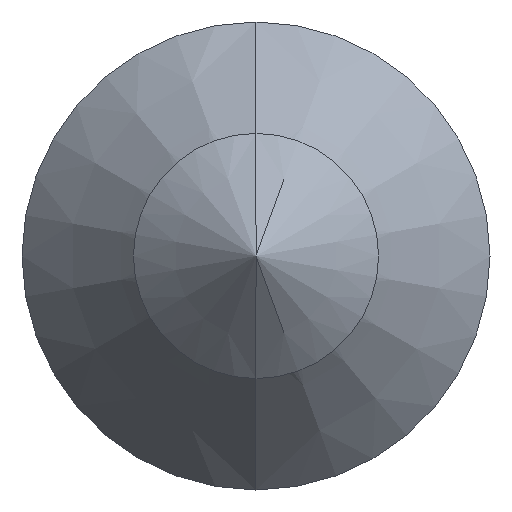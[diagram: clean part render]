
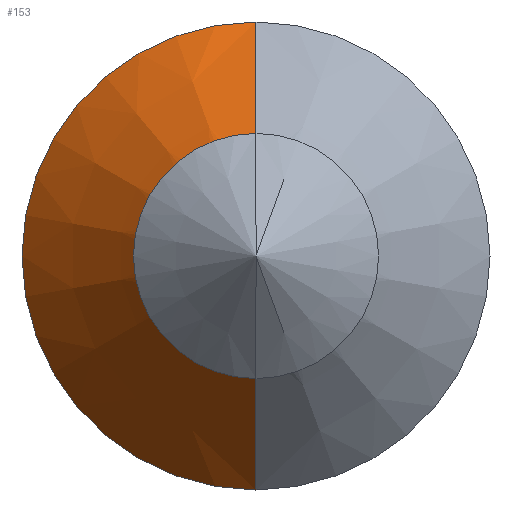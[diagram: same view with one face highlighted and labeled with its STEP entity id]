
A CAD part, left-side view. The second image highlights one B-rep face of the part: STEP entity #153.
In plain terms, the highlighted conical face has half-angle 40 degrees and reference radius 2.1 mm.
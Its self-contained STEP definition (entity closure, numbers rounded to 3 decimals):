
#22 = VERTEX_POINT ( 'NONE', #1291 ) ;
#29 = DIRECTION ( 'NONE',  ( 0.766, 0., 0.643 ) ) ;
#30 = LINE ( 'NONE', #667, #952 ) ;
#35 = AXIS2_PLACEMENT_3D ( 'NONE', #265, #591, #77 ) ;
#77 = DIRECTION ( 'NONE',  ( 0., 0., -1. ) ) ;
#122 = CONICAL_SURFACE ( 'NONE', #35, 2.1, 0.698 ) ;
#132 = DIRECTION ( 'NONE',  ( -1., 0., 0. ) ) ;
#153 = ADVANCED_FACE ( 'NONE', ( #708 ), #122, .T. ) ;
#187 = AXIS2_PLACEMENT_3D ( 'NONE', #192, #930, #296 ) ;
#192 = CARTESIAN_POINT ( 'NONE',  ( -8.895, 0., 0. ) ) ;
#265 = CARTESIAN_POINT ( 'NONE',  ( -7.345, 0., 0. ) ) ;
#296 = DIRECTION ( 'NONE',  ( 0., 0., 1. ) ) ;
#446 = CARTESIAN_POINT ( 'NONE',  ( -8.895, 0., -0.8 ) ) ;
#474 = EDGE_CURVE ( 'NONE', #22, #925, #1162, .T. ) ;
#524 = DIRECTION ( 'NONE',  ( 0.766, 0., -0.643 ) ) ;
#582 = VERTEX_POINT ( 'NONE', #1236 ) ;
#591 = DIRECTION ( 'NONE',  ( 1., 0., 0. ) ) ;
#661 = EDGE_CURVE ( 'Arista3', #1076, #582, #953, .T. ) ;
#667 = CARTESIAN_POINT ( 'NONE',  ( -7.345, 0., 2.1 ) ) ;
#674 = EDGE_LOOP ( 'NONE', ( #984, #740, #733, #739 ) ) ;
#683 = EDGE_CURVE ( 'NONE', #22, #1076, #30, .T. ) ;
#708 = FACE_OUTER_BOUND ( 'NONE', #674, .T. ) ;
#733 = ORIENTED_EDGE ( 'NONE', *, *, #661, .T. ) ;
#739 = ORIENTED_EDGE ( 'NONE', *, *, #1337, .F. ) ;
#740 = ORIENTED_EDGE ( 'NONE', *, *, #683, .T. ) ;
#757 = CARTESIAN_POINT ( 'NONE',  ( -7.345, 0., 0. ) ) ;
#782 = LINE ( 'NONE', #1260, #1142 ) ;
#788 = AXIS2_PLACEMENT_3D ( 'NONE', #757, #132, #865 ) ;
#865 = DIRECTION ( 'NONE',  ( 0., 0., 1. ) ) ;
#925 = VERTEX_POINT ( 'NONE', #446 ) ;
#930 = DIRECTION ( 'NONE',  ( -1., 0., 0. ) ) ;
#952 = VECTOR ( 'NONE', #29, 1000. ) ;
#953 = CIRCLE ( 'NONE', #788, 2.1 ) ;
#984 = ORIENTED_EDGE ( 'NONE', *, *, #474, .F. ) ;
#1076 = VERTEX_POINT ( 'NONE', #1328 ) ;
#1142 = VECTOR ( 'NONE', #524, 1000. ) ;
#1162 = CIRCLE ( 'NONE', #187, 0.8 ) ;
#1236 = CARTESIAN_POINT ( 'NONE',  ( -7.345, 0., -2.1 ) ) ;
#1260 = CARTESIAN_POINT ( 'NONE',  ( -7.345, 0., -2.1 ) ) ;
#1291 = CARTESIAN_POINT ( 'NONE',  ( -8.895, 0., 0.8 ) ) ;
#1328 = CARTESIAN_POINT ( 'NONE',  ( -7.345, 0., 2.1 ) ) ;
#1337 = EDGE_CURVE ( 'NONE', #925, #582, #782, .T. ) ;
